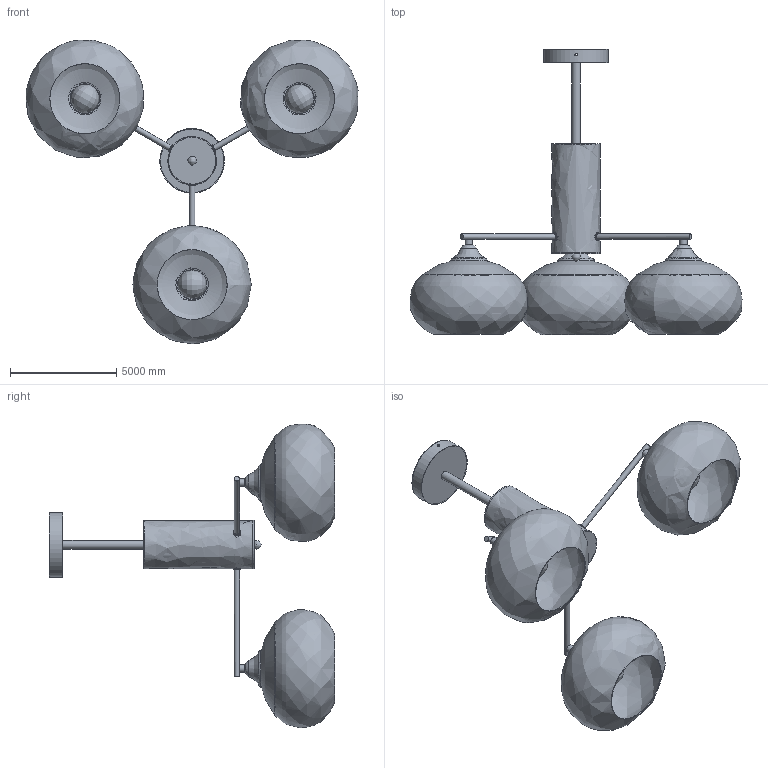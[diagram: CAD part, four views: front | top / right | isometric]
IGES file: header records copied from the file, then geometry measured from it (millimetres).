
Global section: file name: Elliptical Persimmon Chandelier-3heads; native system: AutoCAD 2022 - 简体中文 (Simplified Chinese),62HAuto; preprocessor: desk Translation Framework DWG producer (atf_dwg_producer); organization: unknown; date: 20250703.103934; units: inch
Bounding box: 15652.34 x 13442.53 x 14312.94 mm (x, y, z)
Volume: 16728763815.5 mm3; surface area: 650782832.2 mm2
Topology: 34 solids, 34 shells, 216 faces, 470 edges, 336 vertices
Faces by surface type: bspline 216
